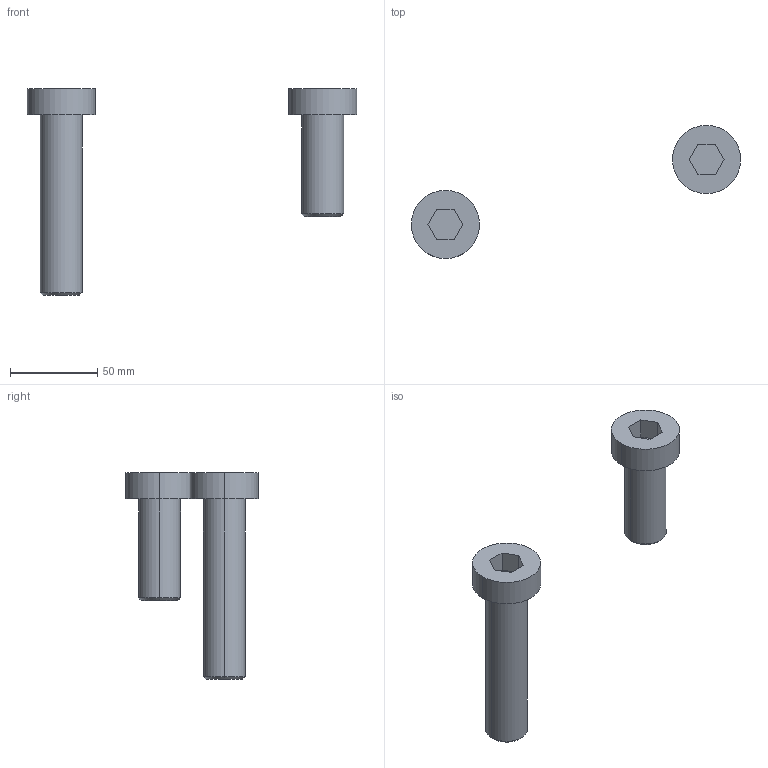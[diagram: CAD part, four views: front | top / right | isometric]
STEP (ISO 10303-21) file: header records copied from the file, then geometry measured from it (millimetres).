
FILE_DESCRIPTION (( 'STEP AP214' ), '1' );
FILE_NAME ('084.301.000.STEP', '2014-03-12T09:27:38', ( '' ), ( '' ), 'SwSTEP 2.0', 'SolidWorks 2011', '' );
FILE_SCHEMA (( 'AUTOMOTIVE_DESIGN' ));
Length unit declared in the file: millimetre
Products named in the file (1): 084.301.000
Bounding box: 188.35 x 76.1 x 118.2 mm (x, y, z)
Volume: 102448.3 mm3; surface area: 21913.6 mm2
Topology: 2 solids, 2 shells, 32 faces, 68 edges, 44 vertices
Faces by surface type: plane 20, cylinder 8, cone 4
Entity records: 903 total; most frequent: DIRECTION 154, CARTESIAN_POINT 145, ORIENTED_EDGE 136, EDGE_CURVE 68, AXIS2_PLACEMENT_3D 53, VECTOR 48, LINE 48, VERTEX_POINT 44
